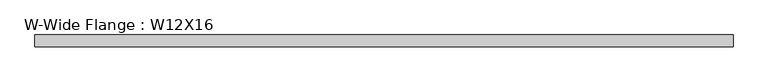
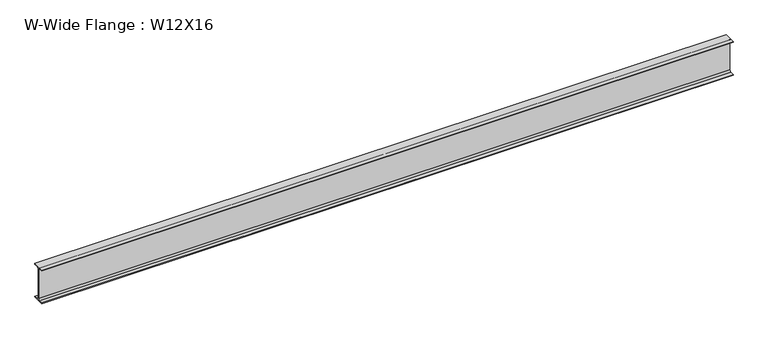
"""IFC4 building model written with IfcOpenShell, lengths in millimetres: beam geometry, W-Wide Flange : W12X16."""

from ifc_helpers import new_model, si_unit, point, frame, frame_2d, origin, place, context, project, spatial, polyline, circle_curve, trimmed, segment, composite_curve, outline, extrude, source, transform, mapped, element, save


def w_wide_flange_w12x16_f1ded87a(model_context):
    return source(origin(), model_context, "Body", "SweptSolid", [
        extrude(outline(composite_curve([segment(polyline([(50.673, -145.669), (50.673, -152.4), (-50.673, -152.4), (-50.673, -145.669), (-16.7005, -145.669)]), True, "CONTINUOUS"), segment(trimmed(circle_curve(frame_2d((-16.7005, -131.7625)), 13.9065), [point((-16.7005, -145.669))], [point((-2.794, -131.7625))], True, "CARTESIAN"), True, "CONTINUOUS"), segment(polyline([(-2.794, -131.7625), (-2.794, 131.7625)]), True, "CONTINUOUS"), segment(trimmed(circle_curve(frame_2d((-16.7005, 131.7625)), 13.9065), [point((-2.794, 131.7625))], [point((-16.7005, 145.669))], True, "CARTESIAN"), True, "CONTINUOUS"), segment(polyline([(-16.7005, 145.669), (-50.673, 145.669), (-50.673, 152.4), (50.673, 152.4), (50.673, 145.669), (16.7005, 145.669)]), True, "CONTINUOUS"), segment(trimmed(circle_curve(frame_2d((16.7005, 131.7625)), 13.9065), [point((16.7005, 145.669))], [point((2.794, 131.7625))], True, "CARTESIAN"), True, "CONTINUOUS"), segment(polyline([(2.794, 131.7625), (2.794, -131.7625)]), True, "CONTINUOUS"), segment(trimmed(circle_curve(frame_2d((16.7005, -131.7625)), 13.9065), [point((2.794, -131.7625))], [point((16.7005, -145.669))], True, "CARTESIAN"), True, "CONTINUOUS"), segment(polyline([(16.7005, -145.669), (50.673, -145.669)]), True, "CONTINUOUS")], self_intersect=False)), frame((-2965.45, 0.0, 0.0), z_axis=(1.0, 0.0, 0.0), x_axis=(0.0, 1.0, 0.0)), (0.0, 0.0, 1.0), 5930.9),
    ])


if __name__ == "__main__":
    model = new_model("IFC4")
    model_context = context("Model", 3, world=origin())
    ifc_project = project(units=[si_unit("LENGTHUNIT", "METRE", prefix="MILLI")], contexts=[model_context])
    site = spatial("IfcSite", under=ifc_project)
    building = spatial("IfcBuilding", under=site)
    placement = place(None, origin())
    w_wide_flange_w12x16_shape = w_wide_flange_w12x16_f1ded87a(model_context)
    element("IfcBeam", 1, ObjectType="W-Wide Flange : W12X16", at=placement, inside=building, context=model_context, shape_type="MappedRepresentation", body=[
        mapped(w_wide_flange_w12x16_shape, transform((0.0, 0.0, 0.0), x_axis=(1.0, 0.0, 0.0), y_axis=(0.0, 1.0, 0.0), z_axis=(0.0, 0.0, 1.0))),
    ])
    save(model, "model.ifc")
